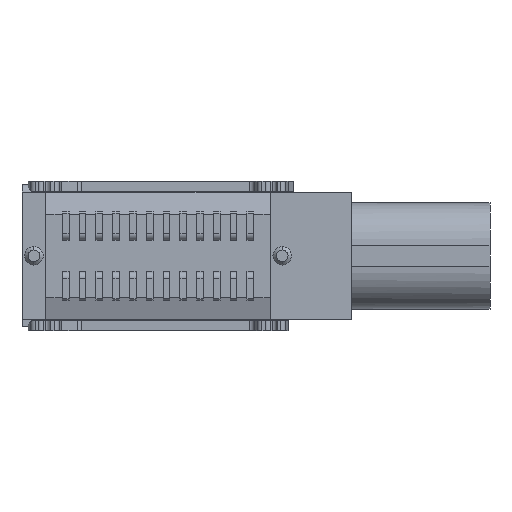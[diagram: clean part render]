
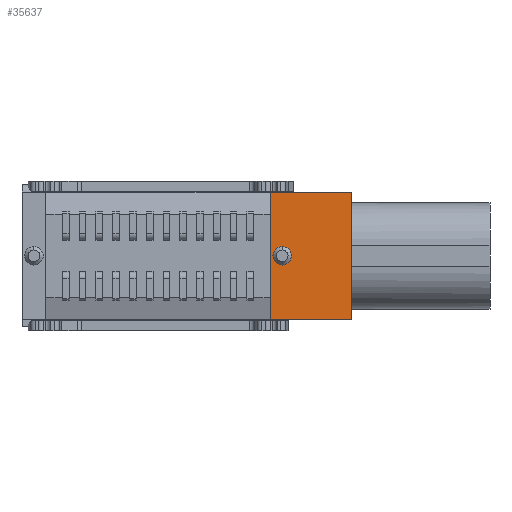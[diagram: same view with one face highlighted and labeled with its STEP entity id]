
A CAD part, front view. The second image highlights one B-rep face of the part: STEP entity #35637.
In plain terms, the highlighted planar face has unit normal (0, -1, 0).
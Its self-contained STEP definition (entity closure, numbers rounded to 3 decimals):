
#1304 = DIRECTION ( 'NONE',  ( 1., 0., 0. ) ) ;
#2590 = DIRECTION ( 'NONE',  ( 0., 0., -1. ) ) ;
#3021 = VERTEX_POINT ( 'NONE', #19700 ) ;
#3482 = DIRECTION ( 'NONE',  ( 0., -1., 0. ) ) ;
#3635 = DIRECTION ( 'NONE',  ( 0., 0., -1. ) ) ;
#4016 = LINE ( 'NONE', #21531, #7685 ) ;
#4106 = VERTEX_POINT ( 'NONE', #14167 ) ;
#5467 = AXIS2_PLACEMENT_3D ( 'NONE', #33913, #3482, #19774 ) ;
#7685 = VECTOR ( 'NONE', #1304, 1000. ) ;
#8505 = LINE ( 'NONE', #22590, #24587 ) ;
#9094 = CARTESIAN_POINT ( 'NONE',  ( -13.261, 12.418, -0.33 ) ) ;
#10419 = CARTESIAN_POINT ( 'NONE',  ( -10.831, 12.418, -0.33 ) ) ;
#10617 = EDGE_CURVE ( 'NONE', #3021, #26615, #20480, .T. ) ;
#10885 = ORIENTED_EDGE ( 'NONE', *, *, #18735, .F. ) ;
#11319 = CARTESIAN_POINT ( 'NONE',  ( -10.831, 12.418, -4.12 ) ) ;
#11399 = DIRECTION ( 'NONE',  ( -1., 0., 0. ) ) ;
#12867 = ORIENTED_EDGE ( 'NONE', *, *, #14490, .F. ) ;
#13135 = ORIENTED_EDGE ( 'NONE', *, *, #10617, .T. ) ;
#13387 = EDGE_CURVE ( 'NONE', #4106, #30296, #28581, .T. ) ;
#13413 = CARTESIAN_POINT ( 'NONE',  ( -12.906, 12.418, -2.5 ) ) ;
#13634 = DIRECTION ( 'NONE',  ( 0., -1., 0. ) ) ;
#14140 = EDGE_CURVE ( 'NONE', #30296, #4106, #32667, .T. ) ;
#14167 = CARTESIAN_POINT ( 'NONE',  ( -12.906, 12.418, -1.95 ) ) ;
#14331 = DIRECTION ( 'NONE',  ( 0., -1., 0. ) ) ;
#14339 = ORIENTED_EDGE ( 'NONE', *, *, #14140, .F. ) ;
#14490 = EDGE_CURVE ( 'NONE', #3021, #26944, #8505, .T. ) ;
#14595 = EDGE_LOOP ( 'NONE', ( #24728, #12867, #13135, #10885 ) ) ;
#16699 = DIRECTION ( 'NONE',  ( 0., 0., -1. ) ) ;
#16868 = LINE ( 'NONE', #9094, #19367 ) ;
#17029 = FACE_OUTER_BOUND ( 'NONE', #14595, .T. ) ;
#18163 = VECTOR ( 'NONE', #31720, 1000. ) ;
#18173 = CARTESIAN_POINT ( 'NONE',  ( -13.261, 12.418, -4.12 ) ) ;
#18735 = EDGE_CURVE ( 'NONE', #30377, #26615, #4016, .T. ) ;
#18928 = AXIS2_PLACEMENT_3D ( 'NONE', #23000, #14331, #3635 ) ;
#19367 = VECTOR ( 'NONE', #16699, 1000. ) ;
#19385 = EDGE_LOOP ( 'NONE', ( #14339, #34579 ) ) ;
#19700 = CARTESIAN_POINT ( 'NONE',  ( -10.831, 12.418, -4.12 ) ) ;
#19774 = DIRECTION ( 'NONE',  ( 0., 0., 1. ) ) ;
#20480 = LINE ( 'NONE', #11319, #18163 ) ;
#21531 = CARTESIAN_POINT ( 'NONE',  ( -13.261, 12.418, -0.33 ) ) ;
#22590 = CARTESIAN_POINT ( 'NONE',  ( -10.831, 12.418, -4.12 ) ) ;
#23000 = CARTESIAN_POINT ( 'NONE',  ( -12.231, 12.418, -0.97 ) ) ;
#24111 = CARTESIAN_POINT ( 'NONE',  ( -13.261, 12.418, -0.33 ) ) ;
#24587 = VECTOR ( 'NONE', #11399, 1000. ) ;
#24728 = ORIENTED_EDGE ( 'NONE', *, *, #31993, .T. ) ;
#25723 = AXIS2_PLACEMENT_3D ( 'NONE', #35189, #13634, #2590 ) ;
#26615 = VERTEX_POINT ( 'NONE', #10419 ) ;
#26944 = VERTEX_POINT ( 'NONE', #18173 ) ;
#28100 = PLANE ( 'NONE',  #18928 ) ;
#28581 = CIRCLE ( 'NONE', #5467, 0.275 ) ;
#30296 = VERTEX_POINT ( 'NONE', #13413 ) ;
#30377 = VERTEX_POINT ( 'NONE', #24111 ) ;
#31338 = FACE_BOUND ( 'NONE', #19385, .T. ) ;
#31720 = DIRECTION ( 'NONE',  ( 0., 0., 1. ) ) ;
#31993 = EDGE_CURVE ( 'NONE', #30377, #26944, #16868, .T. ) ;
#32667 = CIRCLE ( 'NONE', #25723, 0.275 ) ;
#33913 = CARTESIAN_POINT ( 'NONE',  ( -12.906, 12.418, -2.225 ) ) ;
#34579 = ORIENTED_EDGE ( 'NONE', *, *, #13387, .F. ) ;
#35189 = CARTESIAN_POINT ( 'NONE',  ( -12.906, 12.418, -2.225 ) ) ;
#35637 = ADVANCED_FACE ( 'NONE', ( #31338, #17029 ), #28100, .T. ) ;
